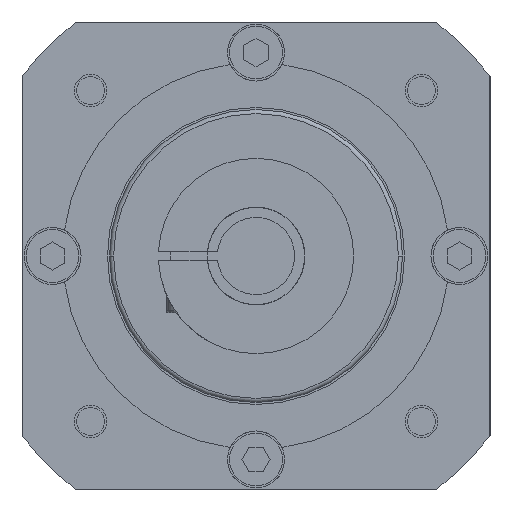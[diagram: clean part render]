
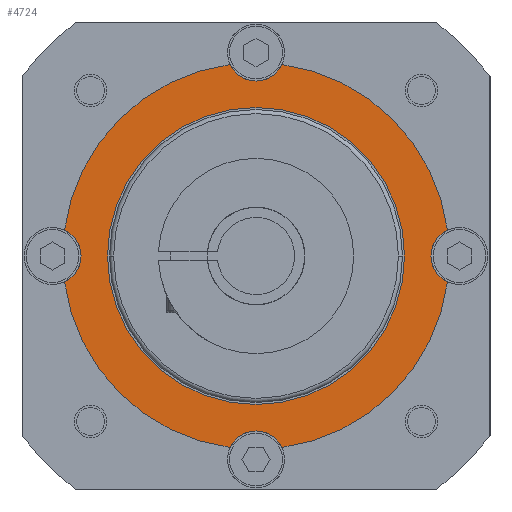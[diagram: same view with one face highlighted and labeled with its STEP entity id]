
A CAD part, left-side view. The second image highlights one B-rep face of the part: STEP entity #4724.
In plain terms, the highlighted planar face has unit normal (-1, 0, 0).
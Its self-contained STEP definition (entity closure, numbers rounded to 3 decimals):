
#959=CARTESIAN_POINT('',(4.4,0.,0.));
#960=DIRECTION('',(1.,0.,0.));
#961=DIRECTION('',(0.,0.991,0.134));
#962=AXIS2_PLACEMENT_3D('',#959,#960,#961);
#968=CARTESIAN_POINT('',(4.4,0.,0.));
#969=DIRECTION('',(1.,0.,0.));
#970=DIRECTION('',(0.,-0.134,0.991));
#971=AXIS2_PLACEMENT_3D('',#968,#969,#970);
#985=CARTESIAN_POINT('',(4.4,0.,0.));
#986=DIRECTION('',(-1.,0.,0.));
#987=DIRECTION('',(0.,-0.134,-0.991));
#988=AXIS2_PLACEMENT_3D('',#985,#986,#987);
#994=CARTESIAN_POINT('',(4.4,0.,0.));
#995=DIRECTION('',(-1.,0.,0.));
#996=DIRECTION('',(0.,0.991,-0.134));
#997=AXIS2_PLACEMENT_3D('',#994,#995,#996);
#1011=CARTESIAN_POINT('',(4.4,0.,0.));
#1012=DIRECTION('',(-1.,0.,0.));
#1013=DIRECTION('',(0.,1.,0.));
#1014=AXIS2_PLACEMENT_3D('',#1011,#1012,#1013);
#1016=CARTESIAN_POINT('',(4.4,0.,0.));
#1017=DIRECTION('',(1.,0.,0.));
#1018=DIRECTION('',(0.,1.,0.));
#1019=AXIS2_PLACEMENT_3D('',#1016,#1017,#1018);
#1021=CARTESIAN_POINT('',(4.4,-50.,0.));
#1022=DIRECTION('',(-1.,0.,0.));
#1023=DIRECTION('',(0.,0.418,0.908));
#1024=AXIS2_PLACEMENT_3D('',#1021,#1022,#1023);
#1026=CARTESIAN_POINT('',(4.4,0.,-50.));
#1027=DIRECTION('',(-1.,0.,0.));
#1028=DIRECTION('',(0.,-0.908,0.418));
#1029=AXIS2_PLACEMENT_3D('',#1026,#1027,#1028);
#1031=CARTESIAN_POINT('',(4.4,0.,-50.));
#1032=DIRECTION('',(-1.,0.,0.));
#1033=DIRECTION('',(0.,0.,1.));
#1034=AXIS2_PLACEMENT_3D('',#1031,#1032,#1033);
#1036=CARTESIAN_POINT('',(4.4,50.,0.));
#1037=DIRECTION('',(-1.,0.,0.));
#1038=DIRECTION('',(0.,-0.418,-0.908));
#1039=AXIS2_PLACEMENT_3D('',#1036,#1037,#1038);
#1041=CARTESIAN_POINT('',(4.4,0.,50.));
#1042=DIRECTION('',(-1.,0.,0.));
#1043=DIRECTION('',(0.,0.908,-0.418));
#1044=AXIS2_PLACEMENT_3D('',#1041,#1042,#1043);
#1046=CARTESIAN_POINT('',(4.4,0.,50.));
#1047=DIRECTION('',(-1.,0.,0.));
#1048=DIRECTION('',(0.,0.,-1.));
#1049=AXIS2_PLACEMENT_3D('',#1046,#1047,#1048);
#2901=CARTESIAN_POINT('',(4.4,-36.5,0.));
#2903=VERTEX_POINT('',#2901);
#2905=CARTESIAN_POINT('',(4.4,36.5,0.));
#2907=VERTEX_POINT('',#2905);
#3031=CARTESIAN_POINT('',(4.4,0.,-43.));
#3032=VERTEX_POINT('',#3031);
#3363=CARTESIAN_POINT('',(4.4,-47.073,6.358));
#3364=CARTESIAN_POINT('',(4.4,-47.073,-6.358));
#3365=VERTEX_POINT('',#3363);
#3366=VERTEX_POINT('',#3364);
#3367=CARTESIAN_POINT('',(4.4,47.073,-6.358));
#3368=CARTESIAN_POINT('',(4.4,47.073,6.358));
#3369=VERTEX_POINT('',#3367);
#3370=VERTEX_POINT('',#3368);
#3371=CARTESIAN_POINT('',(4.4,-6.358,-47.073));
#3372=VERTEX_POINT('',#3371);
#3373=CARTESIAN_POINT('',(4.4,6.358,-47.073));
#3374=VERTEX_POINT('',#3373);
#3375=CARTESIAN_POINT('',(4.4,0.,43.));
#3376=CARTESIAN_POINT('',(4.4,-6.358,47.073));
#3377=VERTEX_POINT('',#3375);
#3378=VERTEX_POINT('',#3376);
#3379=CARTESIAN_POINT('',(4.4,6.358,47.073));
#3380=VERTEX_POINT('',#3379);
#4699=CARTESIAN_POINT('',(4.4,0.,0.));
#4700=DIRECTION('',(1.,0.,0.));
#4701=DIRECTION('',(0.,1.,0.));
#4702=AXIS2_PLACEMENT_3D('',#4699,#4700,#4701);
#4703=PLANE('',#4702);
#4704=ORIENTED_EDGE('',*,*,#4501,.T.);
#4705=ORIENTED_EDGE('',*,*,#4648,.F.);
#4707=ORIENTED_EDGE('',*,*,#4706,.T.);
#4709=ORIENTED_EDGE('',*,*,#4708,.T.);
#4710=ORIENTED_EDGE('',*,*,#4659,.F.);
#4711=ORIENTED_EDGE('',*,*,#4592,.T.);
#4712=ORIENTED_EDGE('',*,*,#4620,.T.);
#4713=ORIENTED_EDGE('',*,*,#4678,.T.);
#4714=ORIENTED_EDGE('',*,*,#4691,.T.);
#4715=ORIENTED_EDGE('',*,*,#4631,.T.);
#4716=EDGE_LOOP('',(#4704,#4705,#4707,#4709,#4710,#4711,#4712,#4713,#4714,
#4715));
#4717=FACE_OUTER_BOUND('',#4716,.F.);
#4719=ORIENTED_EDGE('',*,*,#4718,.T.);
#4721=ORIENTED_EDGE('',*,*,#4720,.F.);
#4722=EDGE_LOOP('',(#4719,#4721));
#4723=FACE_BOUND('',#4722,.F.);
#963=CIRCLE('',#962,47.5);
#972=CIRCLE('',#971,47.5);
#989=CIRCLE('',#988,47.5);
#998=CIRCLE('',#997,47.5);
#1015=CIRCLE('',#1014,36.5);
#1020=CIRCLE('',#1019,36.5);
#1025=CIRCLE('',#1024,7.);
#1030=CIRCLE('',#1029,7.);
#1035=CIRCLE('',#1034,7.);
#1040=CIRCLE('',#1039,7.);
#1045=CIRCLE('',#1044,7.);
#1050=CIRCLE('',#1049,7.);
#4501=EDGE_CURVE('',#3365,#3366,#1025,.T.);
#4592=EDGE_CURVE('',#3369,#3370,#1040,.T.);
#4620=EDGE_CURVE('',#3370,#3380,#963,.T.);
#4631=EDGE_CURVE('',#3378,#3365,#972,.T.);
#4648=EDGE_CURVE('',#3372,#3366,#989,.T.);
#4659=EDGE_CURVE('',#3369,#3374,#998,.T.);
#4678=EDGE_CURVE('',#3380,#3377,#1045,.T.);
#4691=EDGE_CURVE('',#3377,#3378,#1050,.T.);
#4706=EDGE_CURVE('',#3372,#3032,#1030,.T.);
#4708=EDGE_CURVE('',#3032,#3374,#1035,.T.);
#4718=EDGE_CURVE('',#2907,#2903,#1015,.T.);
#4720=EDGE_CURVE('',#2907,#2903,#1020,.T.);
#4724=ADVANCED_FACE('',(#4717,#4723),#4703,.F.);
